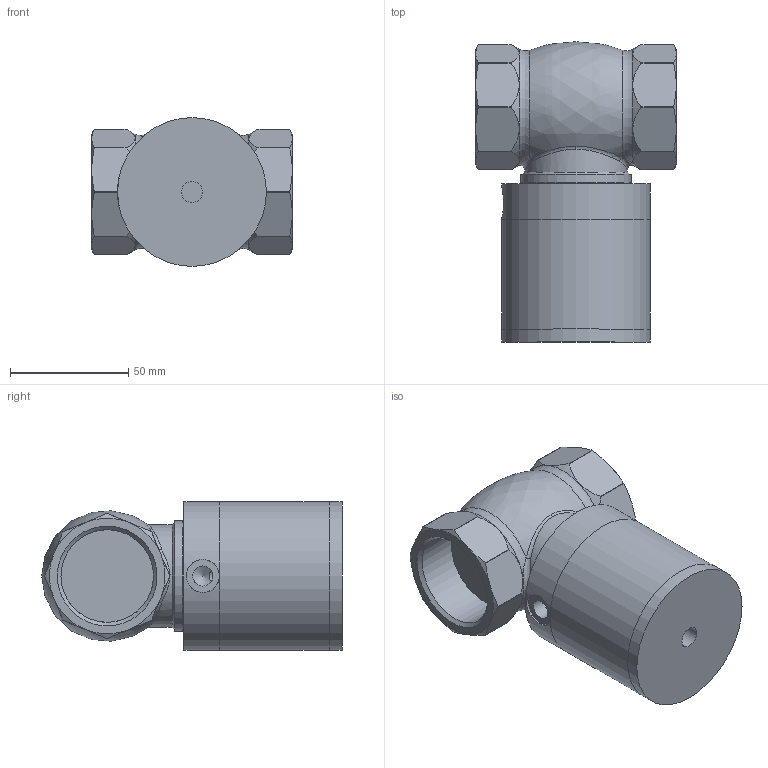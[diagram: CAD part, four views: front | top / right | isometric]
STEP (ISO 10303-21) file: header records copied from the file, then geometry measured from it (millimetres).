
FILE_DESCRIPTION(/* description */ (''),/* implementation_level */ '2;1');
FILE_NAME(/* name */ 'D:\OneDrive\Disegni Air Matic\Inventor\3D AerFlux base\AerFlux 114.stp',/* time_stamp */ '2020-06-03T19:20:17+02:00',/* author */ ('Alex'),/* organization */ (''),/* preprocessor_version */ 'ST-DEVELOPER v16.1',/* originating_system */ 'Autodesk Inventor 2016',/* authorisation */ '');
FILE_SCHEMA (('AUTOMOTIVE_DESIGN { 1 0 10303 214 3 1 1 }'));
Length unit declared in the file: millimetre
Products named in the file (5): Tubo AF 1 114; Testa Posteriore AF 1 114; SAICORPGDBO07; Testa Anteriore AF 114; AerFlux 1114
Assembly tree (4 placements, depth 2):
  AerFlux 1114
    Tubo AF 1 114
    Testa Posteriore AF 1 114
    SAICORPGDBO07
    Testa Anteriore AF 114
Bounding box: 85 x 127.19 x 63 mm (x, y, z)
Volume: 240743 mm3; surface area: 74491.2 mm2
Topology: 4 solids, 4 shells, 138 faces, 291 edges, 184 vertices
Faces by surface type: cylinder 52, plane 51, cone 25, bspline 8, torus 2
Full cylindrical faces by diameter (mm): 6 x1, 8.566 x1, 9 x1, 12.05 x1, 13.5 x2, 14 x1, 16.8 x2, 18.6 x1, 29 x2, 36 x1, 36.3 x1, 38 x1, 38.5 x1, 39.2 x2, 40 x2, 43.5 x1, 45 x1, 46.8 x1, 56 x2, 58 x1, 60 x4, 60.5 x2, 63 x3
Entity records: 5580 total; most frequent: CARTESIAN_POINT 2824, DIRECTION 575, ORIENTED_EDGE 480, AXIS2_PLACEMENT_3D 269, EDGE_CURVE 239, EDGE_LOOP 212, VERTEX_POINT 175, FACE_OUTER_BOUND 138
